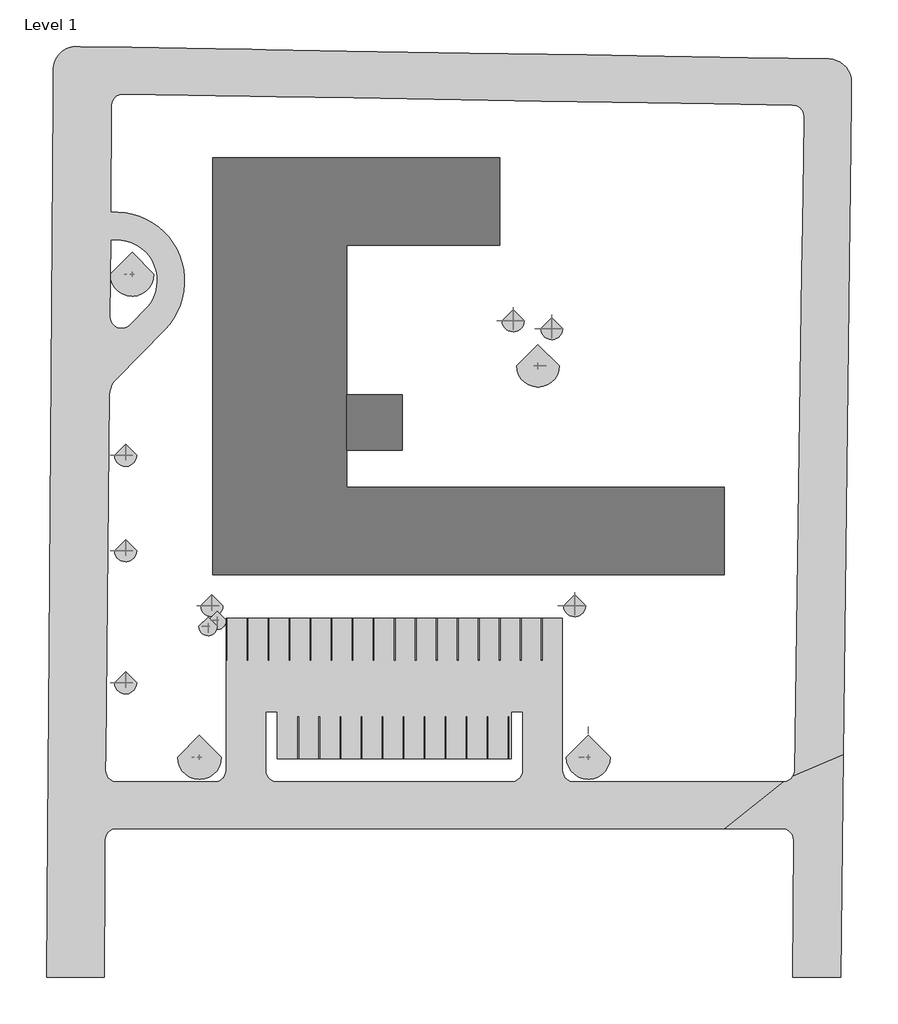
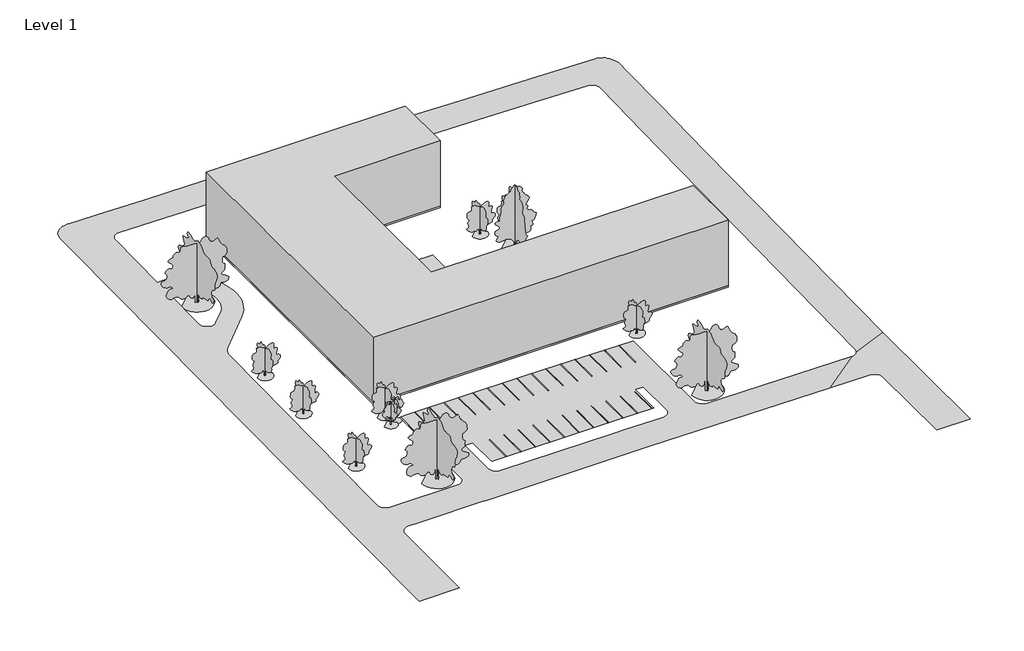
# One storey, incomplete: 30 proxies, 13 geographic elements, 1 slab.
"""IFC4 building model written with IfcOpenShell, lengths in millimetres."""

from ifc_helpers import new_model, si_unit, frame, origin, origin_with_axes, place, context, project, spatial, polyline, outline, extrude, triangles, transform, mapped, element, save
from components import m_parking_space_5480_x_2740mm_90_deg_a793e569, m_rpc_tree_deciduous_american_beech_6_0_meters_be49fed4, m_rpc_tree_deciduous_japanese_cherry_4_5_meters_7aaeb41d, m_rpc_tree_deciduous_lombardy_poplar_12_2_meters_1b309f58, m_rpc_tree_deciduous_scarlet_oak_12_5_meters_13b38d7d

model = new_model("IFC4")

# Units and contexts
model_context = context("Model", 3, world=origin())
ifc_project = project(units=[si_unit("LENGTHUNIT", "METRE", prefix="MILLI")], contexts=[model_context])

# Site, building, storey
site = spatial("IfcSite", under=ifc_project)
building = spatial("IfcBuilding", under=site)
storey = spatial("IfcBuildingStorey", under=building, Name="Level 1", Elevation=0.0)

# Proxies
placement = place(None, origin())
element("IfcBuildingElementProxy", 1, Name="Building Element Proxy", at=placement, inside=storey, context=model_context, shape_type="Tessellation", body=[
    triangles([(70309.7548828, 43704.7137085, -503.1527547), (59746.7205688, 43879.5355957, -409.5406998), (45204.5570435, 44120.2092773, -278.9620967), (38757.531958, 44226.9097412, -221.9724431), (23364.4389771, 44481.6709351, -156.1477909), (7458.42556, 44744.915332, 0.0), (-3099.0088051, 44919.6442017, 0.0), (-4909.0805878, 44949.6005127, 0.0), (-9691.7927261, 45028.7538208, 0.0), (-13464.786264, 45091.2011719, 0.0), (-20574.5627563, 45208.8684082, 0.0), (-27271.6376953, 45319.7081543, 0.0), (-27739.5370422, 45327.4518677, 0.0), (-28264.1631592, 45290.0215942, 0.0), (-28774.1901672, 45161.5457153, 0.0), (-29253.9399536, 44945.9681763, 0.0), (-29688.6669067, 44649.9211304, 0.0), (-30065.011377, 44282.4970459, 0.0), (-30371.4019775, 43854.9975586, 0.0), (-30598.4230042, 43380.5567505, 0.0), (-30739.095813, 42873.755127, 0.0), (-30774.2820374, 42505.3404053, 0.0), (-30789.0997375, 42350.1824341, 0.0), (-30818.2607483, 38430.6216797, 0.0), (-31349.0702087, -32913.8142334, 0.0), (-31410.3827454, -41154.7298218, 0.0), (-31466.9560364, -48758.3494263, 0.0), (-31526.3942688, -56747.4710815, 0.0), (-31669.8878357, -76033.9217651, 0.0), (-24160.2671448, -76033.9217651, 0.0), (-24090.7853394, -62944.5904907, 0.0), (-24065.2287598, -58130.4099243, 0.0), (-24026.1078918, -57797.9371948, 0.0), (-23964.4744446, -57624.1291992, 0.0), (-23914.2263489, -57482.4262207, 0.0), (-23735.1558838, -57199.58302, 0.0), (-23497.8145569, -56963.4997559, 0.0), (-23214.0249023, -56785.9338501, 0.0), (-22897.9232666, -56675.7266235, 0.0), (-22565.2505493, -56638.3707642, 0.0), (-21189.1601257, -56638.3707642, 0.0), (-18714.6158203, -56638.3707642, 0.0), (-9198.8908356, -56638.3707642, 0.0), (-8594.8358459, -56638.3707642, 0.0), (-7828.2291504, -56638.3707642, 0.0), (21010.0826843, -56638.3707642, 0.0), (22698.8121643, -56638.3707642, 0.0), (56711.1151611, -56638.3707642, -334.7282604), (64236.9255615, -56638.3707642, -334.7282604), (64572.5050781, -56676.3916992, -334.0721231), (64891.0763306, -56788.5243896, -332.1369578), (65176.4821655, -56969.0808105, -329.020869), (65414.2630005, -57208.917334, -324.8818048), (65592.3591064, -57495.8672607, -319.9295998), (65701.7431274, -57815.3872925, -314.4152925), (65736.8712158, -58151.2830688, -308.6184443), (65582.9224731, -76033.9217651, 0.0), (71858.6882446, -76033.9217651, 0.0), (72207.6111328, -46972.9328247, -501.5343578), (72914.4470581, 11897.6051788, -595.5837407), (72981.5592407, 17486.9884277, -555.8220689), (73096.2220093, 27037.1194519, -545.4053719), (73231.3532959, 38291.881311, -535.7858282), (73259.8957397, 40669.1083008, -533.0508934), (73220.8237061, 41189.0672607, -532.0520082), (73092.3059692, 41694.4085083, -530.2807137), (72878.2306641, 42169.863208, -527.790495), (72585.0625122, 42601.0694458, -524.6566383), (72221.661438, 42975.0001099, -520.9737236), (71799.0035156, 43280.3582153, -516.8530812), (71329.8554077, 43507.9210693, -512.4191949), (70828.3883423, 43650.810022, -507.805959), (65844.943689, -49064.5493408, -435.8225258), (65789.1005859, -49448.423584, -434.7050795), (65636.6912842, -49805.1366943, -432.6774053), (65397.8965576, -50110.8436157, -429.875069), (65088.6968262, -50345.0897827, -426.4855594), (64729.7652466, -50492.2110352, -422.7355339), (64345.1050049, -50542.3707642, -418.8757768), (37077.7972778, -50542.3707642, -150.5276125), (36744.0176514, -50504.7637573, -147.2983764), (36426.9718872, -50393.8263428, -144.3423523), (36142.5636658, -50215.1163208, -141.8077414), (35905.0502563, -49977.6052368, -139.8216707), (35726.3448853, -49693.1946899, -138.4837074), (35615.4051453, -49376.1535767, -137.8609529), (35577.7981384, -49042.3692993, -137.9846372), (35577.7981384, -29206.3707642, -167.3300298), (18575.1115448, -29206.3707642, 0.0), (14497.9359924, -29206.3707642, 0.0), (-7039.9656372, -29206.3707642, 0.0), (-8262.2014984, -29206.3707642, 0.0), (-8262.2014984, -49042.3692993, 0.0), (-8299.809668, -49376.1535767, 0.0), (-8410.7482452, -49693.1946899, 0.0), (-8589.4541977, -49977.6052368, 0.0), (-8665.8786026, -50054.028479, 0.0), (-8826.9670258, -50215.1163208, 0.0), (-9111.3758286, -50393.8263428, 0.0), (-9428.4198486, -50504.7637573, 0.0), (-9455.9652603, -50507.8658936, 0.0), (-9762.2018005, -50542.3707642, 0.0), (-21961.0269653, -50542.3707642, 0.0), (-22489.1714722, -50542.3707642, 0.0), (-22825.1137573, -50504.2661133, 0.0), (-23143.9896423, -50391.896228, 0.0), (-23429.5977905, -50210.9584351, 0.0), (-23667.4274597, -49970.6568237, 0.0), (-23845.3979919, -49683.1953003, 0.0), (-23954.4657532, -49363.1729736, 0.0), (-23989.0915466, -49026.8539673, 0.0), (-23965.8278503, -46777.8191528, 0.0), (-23482.8736084, -89.4265001, 0.0), (-23435.7322998, 363.1888415, 0.0), (-23321.7694885, 803.7518847, 0.0), (-23143.5268799, 1222.4547432, 0.0), (-22904.9670227, 1609.9761475, 0.0), (-22611.4058716, 1957.6892258, 0.0), (-16262.7991974, 8428.9988754, 0.0), (-15636.7711304, 9137.9788559, 0.0), (-15088.4732025, 9908.6498383, 0.0), (-14623.9422546, 10732.5286194, 0.0), (-14248.2919281, 11600.5442413, 0.0), (-13965.658017, 12503.1414734, 0.0), (-13779.1507965, 13430.3848755, 0.0), (-13690.8247925, 14372.0646057, 0.0), (-13701.6508759, 15317.8173431, 0.0), (-13811.5116119, 16257.2297699, 0.0), (-14019.1954468, 17179.959494, 0.0), (-14322.4187988, 18075.8513214, 0.0), (-14717.8411743, 18935.0395752, 0.0), (-15201.1093506, 19748.0690186, 0.0), (-15766.9062103, 20505.9855469, 0.0), (-16409.0007385, 21200.4478088, 0.0), (-17120.3235992, 21823.812085, 0.0), (-17893.0473633, 22369.2160034, 0.0), (-18718.662085, 22830.6506287, 0.0), (-19588.0811096, 23203.0418518, 0.0), (-20491.7329285, 23482.2875977, 0.0), (-21419.6693115, 23665.3136353, 0.0), (-22361.6746033, 23750.1084595, 0.0), (-23307.3796692, 23735.7325928, 0.0), (-23203.9185425, 37641.6768127, 0.0), (-23163.3768311, 37977.0679688, 0.0), (-23048.8094055, 38294.8811279, 0.0), (-22866.0228882, 38578.9940186, 0.0), (-22624.2911316, 38814.9958923, 0.0), (-22335.8738525, 38990.915387, 0.0), (-22015.4050415, 39097.8274658, 0.0), (-21679.1371948, 39130.3092041, 0.0), (-13208.9460663, 38990.1293884, 0.0), (-9625.997905, 38930.8306824, 0.0), (-5084.1908295, 38855.6655029, 0.0), (-1645.9585442, 38798.7619995, 0.0), (8377.2142456, 38632.8791016, 0.0), (32875.1398499, 38227.4364075, -240.4937689), (46729.6360474, 37998.1434265, -299.7389899), (55435.3325684, 37854.0638489, -376.6945579), (65630.1847046, 37685.3392639, -468.2372987), (65962.9318359, 37642.302356, -471.261242), (66277.7870361, 37526.3815247, -474.1950019), (66559.0024292, 37343.376416, -476.8917123), (66792.4998047, 37102.4422852, -479.216534), (66966.6054565, 36815.6318848, -481.0531225), (67072.6082886, 36497.2978271, -482.3095865), (67105.1969971, 36163.3670471, -482.9230665), (67025.2297852, 30755.4808594, -487.4104743), (66899.3025879, 22239.1774292, -496.4906977), (66805.7827148, 15914.661145, -541.4088498), (-1581.9995121, -47494.3707642, 0.0), (18839.3663452, -47494.3707642, 0.0), (21324.2449036, -47494.3707642, 0.0), (28897.5965881, -47494.3707642, -74.5322966), (28897.5965881, -41398.3707642, -83.5507232), (30421.5965881, -41398.3707642, -98.5489992), (30421.5965881, -49042.3692993, -87.2404598), (30383.9895813, -49376.1535767, -86.3765409), (30273.0498413, -49693.1946899, -84.8157168), (30094.3444702, -49977.6052368, -82.6362441), (29856.8310608, -50215.1163208, -79.9474184), (29572.4228394, -50393.8263428, -76.8840607), (29255.3770752, -50504.7637573, -73.5997817), (28921.5974487, -50542.3707642, -70.2592743), (21782.4332153, -50542.3707642, 0.0), (19562.9384583, -50542.3707642, 0.0), (-1605.9993553, -50542.3707642, 0.0), (-1939.7807259, -50504.7637573, 0.0), (-2256.8250366, -50393.8263428, 0.0), (-2541.2341301, -50215.1163208, 0.0), (-2778.7466675, -49977.6052368, 0.0), (-2957.4526199, -49693.1946899, 0.0), (-3068.3911972, -49376.1535767, 0.0), (-3105.9993668, -49042.3692993, 0.0), (-3105.9993668, -41398.3707642, 0.0), (-1581.9995121, -41398.3707642, 0.0), (-23329.5411072, 20062.4428528, 0.0), (-22621.2355042, 20122.8182373, 0.0), (-21911.2137268, 20088.0784973, 0.0), (-21212.1866272, 19958.8398743, 0.0), (-20536.6766968, 19737.4208313, 0.0), (-19896.7808716, 19427.7839172, 0.0), (-19303.9589172, 19035.4776306, 0.0), (-18768.829953, 18567.527124, 0.0), (-18300.9771149, 18032.3132813, 0.0), (-17908.7801239, 17439.420401, 0.0), (-17599.2606445, 16799.4687653, 0.0), (-17377.9648499, 16123.9181396, 0.0), (-17248.854126, 15424.8677856, 0.0), (-17214.2422852, 14714.8378693, 0.0), (-17274.7478943, 14006.5438934, 0.0), (-17429.2872986, 13312.6722931, 0.0), (-17675.0943878, 12645.649054, 0.0), (-18007.7659424, 12017.4211212, 0.0), (-18421.3430237, 11439.2389709, 0.0), (-20791.7983337, 9022.9684341, 0.0), (-21073.2044128, 8797.119429, 0.0), (-21399.8193604, 8643.7590225, 0.0), (-21753.3349915, 8571.483783, 0.0), (-22113.9339111, 8584.3452072, 0.0), (-22461.4010742, 8681.6229904, 0.0), (-22776.2609253, 8857.8639771, 0.0), (-23040.8610535, 9103.1879562, 0.0), (-23240.3698059, 9403.8428604, 0.0), (-23363.6018188, 9742.9750671, 0.0), (-23403.6505371, 10101.5741089, 0.0)], [[29, 30, 31], [29, 31, 28], [28, 32, 33], [32, 28, 31], [33, 34, 28], [28, 34, 35], [36, 37, 108], [36, 108, 28], [108, 37, 107], [38, 106, 107], [106, 38, 39], [37, 38, 107], [36, 28, 35], [28, 108, 27], [110, 111, 27], [109, 110, 27], [26, 27, 112], [25, 112, 113], [112, 25, 26], [27, 111, 112], [109, 27, 108], [114, 115, 224], [113, 114, 225], [225, 114, 224], [223, 116, 117], [223, 224, 115], [116, 223, 115], [25, 113, 24], [24, 113, 225], [105, 39, 40], [104, 40, 103], [105, 40, 104], [117, 118, 222], [118, 219, 220], [221, 118, 220], [223, 117, 222], [103, 41, 42], [41, 103, 40], [219, 118, 218], [216, 118, 119], [217, 218, 118], [118, 216, 217], [216, 119, 215], [212, 213, 122], [214, 121, 213], [119, 214, 215], [221, 222, 118], [121, 122, 213], [122, 123, 212], [211, 123, 124], [211, 212, 123], [211, 124, 210], [210, 124, 125], [121, 214, 120], [120, 214, 119], [105, 106, 39], [142, 143, 24], [196, 142, 24], [24, 144, 145], [144, 24, 143], [24, 145, 23], [146, 23, 145], [142, 196, 197], [196, 24, 225], [140, 198, 139], [197, 198, 141], [141, 198, 140], [12, 146, 147], [141, 142, 197], [12, 147, 148], [22, 20, 21], [16, 17, 22], [20, 22, 19], [18, 19, 22], [17, 18, 22], [22, 23, 13], [23, 12, 13], [23, 146, 12], [149, 11, 148], [16, 22, 15], [22, 14, 15], [13, 14, 22], [149, 150, 11], [12, 148, 11], [139, 198, 199], [207, 208, 128], [133, 203, 204], [205, 206, 131], [132, 204, 205], [207, 129, 206], [209, 126, 127], [126, 209, 210], [127, 128, 208], [206, 130, 131], [130, 206, 129], [129, 207, 128], [127, 208, 209], [210, 125, 126], [131, 132, 205], [137, 201, 136], [200, 201, 137], [11, 150, 151], [139, 199, 138], [200, 137, 138], [201, 202, 136], [199, 200, 138], [203, 134, 202], [134, 135, 202], [136, 202, 135], [10, 151, 9], [10, 11, 151], [203, 133, 134], [204, 132, 133], [103, 42, 102], [100, 43, 44], [99, 100, 44], [102, 43, 101], [188, 45, 187], [100, 101, 43], [44, 45, 99], [45, 186, 187], [43, 102, 42], [185, 186, 46], [46, 186, 45], [184, 46, 47], [185, 46, 184], [182, 183, 47], [47, 183, 184], [182, 82, 181], [99, 45, 98], [98, 45, 97], [95, 96, 190], [93, 94, 192], [95, 191, 94], [97, 190, 96], [45, 189, 190], [45, 188, 189], [191, 192, 94], [191, 95, 190], [193, 93, 192], [180, 181, 83], [190, 97, 45], [81, 182, 47], [79, 50, 78], [49, 50, 79], [80, 47, 48], [48, 79, 80], [79, 48, 49], [81, 47, 80], [78, 50, 51], [57, 58, 56], [55, 59, 54], [77, 51, 52], [59, 75, 53], [76, 52, 53], [54, 59, 53], [182, 81, 82], [55, 56, 59], [180, 84, 179], [180, 83, 84], [179, 84, 85], [177, 178, 86], [85, 86, 178], [178, 179, 85], [87, 177, 86], [77, 78, 51], [75, 76, 53], [59, 73, 74], [74, 75, 59], [77, 52, 76], [82, 83, 181], [56, 58, 59], [170, 171, 195], [91, 92, 194], [194, 195, 91], [93, 194, 92], [195, 90, 91], [90, 195, 171], [194, 93, 193], [175, 176, 87], [172, 174, 89], [172, 173, 174], [175, 88, 174], [88, 175, 87], [172, 89, 171], [177, 87, 176], [89, 174, 88], [8, 152, 153], [7, 153, 154], [8, 9, 152], [6, 7, 154], [8, 153, 7], [154, 155, 6], [9, 151, 152], [89, 90, 171], [155, 5, 6], [155, 156, 5], [5, 156, 4], [4, 157, 3], [4, 156, 157], [168, 169, 61], [160, 161, 1], [162, 163, 64], [161, 162, 1], [163, 164, 63], [62, 168, 61], [61, 169, 60], [165, 166, 63], [167, 63, 166], [168, 62, 167], [164, 165, 63], [63, 167, 62], [3, 158, 2], [2, 158, 159], [2, 159, 1], [66, 71, 72], [72, 1, 65], [159, 160, 1], [158, 3, 157], [66, 72, 65], [64, 65, 1], [66, 67, 71], [69, 70, 68], [67, 68, 70], [71, 67, 70], [162, 64, 1], [163, 63, 64], [60, 169, 73], [59, 60, 73]], closed=False),
])
m_parking_space_5480_x_2740mm_90_deg_shape = m_parking_space_5480_x_2740mm_90_deg_a793e569(model_context)
element("IfcBuildingElementProxy", 2, Name="M_Parking Space : 5480 x 2740mm - 90 deg", ObjectType="M_Parking Space : 5480 x 2740mm - 90 deg", at=placement, inside=storey, context=model_context, shape_type="MappedRepresentation", body=[
    mapped(m_parking_space_5480_x_2740mm_90_deg_shape, transform((-8211.3704002, -29206.3707642, 0.7803686), x_axis=(1.0, 0.0, 0.0), y_axis=(0.0, 1.0, 0.0), z_axis=(0.0, 0.0, 1.0))),
])
element("IfcBuildingElementProxy", 3, Name="M_Parking Space : 5480 x 2740mm - 90 deg", ObjectType="M_Parking Space : 5480 x 2740mm - 90 deg", at=placement, inside=storey, context=model_context, shape_type="MappedRepresentation", body=[
    mapped(m_parking_space_5480_x_2740mm_90_deg_shape, transform((-5471.4012928, -29206.3707642, 0.7803686), x_axis=(1.0, 0.0, 0.0), y_axis=(0.0, 1.0, 0.0), z_axis=(0.0, 0.0, 1.0))),
])
element("IfcBuildingElementProxy", 4, Name="M_Parking Space : 5480 x 2740mm - 90 deg", ObjectType="M_Parking Space : 5480 x 2740mm - 90 deg", at=placement, inside=storey, context=model_context, shape_type="MappedRepresentation", body=[
    mapped(m_parking_space_5480_x_2740mm_90_deg_shape, transform((-2731.4321855, -29206.3707642, 0.7803686), x_axis=(1.0, 0.0, 0.0), y_axis=(0.0, 1.0, 0.0), z_axis=(0.0, 0.0, 1.0))),
])
element("IfcBuildingElementProxy", 5, Name="M_Parking Space : 5480 x 2740mm - 90 deg", ObjectType="M_Parking Space : 5480 x 2740mm - 90 deg", at=placement, inside=storey, context=model_context, shape_type="MappedRepresentation", body=[
    mapped(m_parking_space_5480_x_2740mm_90_deg_shape, transform((8.5369219, -29206.3707642, 0.7803686), x_axis=(1.0, 0.0, 0.0), y_axis=(0.0, 1.0, 0.0), z_axis=(0.0, 0.0, 1.0))),
])
element("IfcBuildingElementProxy", 6, Name="M_Parking Space : 5480 x 2740mm - 90 deg", ObjectType="M_Parking Space : 5480 x 2740mm - 90 deg", at=placement, inside=storey, context=model_context, shape_type="MappedRepresentation", body=[
    mapped(m_parking_space_5480_x_2740mm_90_deg_shape, transform((2748.5060292, -29206.3707642, 0.7803686), x_axis=(1.0, 0.0, 0.0), y_axis=(0.0, 1.0, 0.0), z_axis=(0.0, 0.0, 1.0))),
])
element("IfcBuildingElementProxy", 7, Name="M_Parking Space : 5480 x 2740mm - 90 deg", ObjectType="M_Parking Space : 5480 x 2740mm - 90 deg", at=placement, inside=storey, context=model_context, shape_type="MappedRepresentation", body=[
    mapped(m_parking_space_5480_x_2740mm_90_deg_shape, transform((5488.4751366, -29206.3707642, 0.7803686), x_axis=(1.0, 0.0, 0.0), y_axis=(0.0, 1.0, 0.0), z_axis=(0.0, 0.0, 1.0))),
])
element("IfcBuildingElementProxy", 8, Name="M_Parking Space : 5480 x 2740mm - 90 deg", ObjectType="M_Parking Space : 5480 x 2740mm - 90 deg", at=placement, inside=storey, context=model_context, shape_type="MappedRepresentation", body=[
    mapped(m_parking_space_5480_x_2740mm_90_deg_shape, transform((8228.4442439, -29206.3707642, 0.7803686), x_axis=(1.0, 0.0, 0.0), y_axis=(0.0, 1.0, 0.0), z_axis=(0.0, 0.0, 1.0))),
])
element("IfcBuildingElementProxy", 9, Name="M_Parking Space : 5480 x 2740mm - 90 deg", ObjectType="M_Parking Space : 5480 x 2740mm - 90 deg", at=placement, inside=storey, context=model_context, shape_type="MappedRepresentation", body=[
    mapped(m_parking_space_5480_x_2740mm_90_deg_shape, transform((10968.4133512, -29206.3707642, 0.7803686), x_axis=(1.0, 0.0, 0.0), y_axis=(0.0, 1.0, 0.0), z_axis=(0.0, 0.0, 1.0))),
])
element("IfcBuildingElementProxy", 10, Name="M_Parking Space : 5480 x 2740mm - 90 deg", ObjectType="M_Parking Space : 5480 x 2740mm - 90 deg", at=placement, inside=storey, context=model_context, shape_type="MappedRepresentation", body=[
    mapped(m_parking_space_5480_x_2740mm_90_deg_shape, transform((13708.3824586, -29206.3707642, 0.7803686), x_axis=(1.0, 0.0, 0.0), y_axis=(0.0, 1.0, 0.0), z_axis=(0.0, 0.0, 1.0))),
])
element("IfcBuildingElementProxy", 11, Name="M_Parking Space : 5480 x 2740mm - 90 deg", ObjectType="M_Parking Space : 5480 x 2740mm - 90 deg", at=placement, inside=storey, context=model_context, shape_type="MappedRepresentation", body=[
    mapped(m_parking_space_5480_x_2740mm_90_deg_shape, transform((16448.3515659, -29206.3707642, 0.7254434), x_axis=(1.0, 0.0, 0.0), y_axis=(0.0, 1.0, 0.0), z_axis=(0.0, 0.0, 1.0))),
])
element("IfcBuildingElementProxy", 12, Name="M_Parking Space : 5480 x 2740mm - 90 deg", ObjectType="M_Parking Space : 5480 x 2740mm - 90 deg", at=placement, inside=storey, context=model_context, shape_type="MappedRepresentation", body=[
    mapped(m_parking_space_5480_x_2740mm_90_deg_shape, transform((19188.3206733, -29206.3707642, -5.2310848), x_axis=(0.9999560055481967, 0.0, -0.009380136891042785), y_axis=(-1.1675017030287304e-05, 0.9999992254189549, -0.0012445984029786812), z_axis=(0.009380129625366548, 0.0012446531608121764, 0.9999552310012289))),
])
element("IfcBuildingElementProxy", 13, Name="M_Parking Space : 5480 x 2740mm - 90 deg", ObjectType="M_Parking Space : 5480 x 2740mm - 90 deg", at=placement, inside=storey, context=model_context, shape_type="MappedRepresentation", body=[
    mapped(m_parking_space_5480_x_2740mm_90_deg_shape, transform((21928.2897806, -29206.3707642, -32.2196013), x_axis=(0.9999515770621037, 0.0, -0.0098409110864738), y_axis=(-1.4557933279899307e-05, 0.9999989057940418, -0.0014792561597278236), z_axis=(0.009840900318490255, 0.0014793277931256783, 0.99995048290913))),
])
element("IfcBuildingElementProxy", 14, Name="M_Parking Space : 5480 x 2740mm - 90 deg", ObjectType="M_Parking Space : 5480 x 2740mm - 90 deg", at=placement, inside=storey, context=model_context, shape_type="MappedRepresentation", body=[
    mapped(m_parking_space_5480_x_2740mm_90_deg_shape, transform((24668.258888, -29206.3707642, -59.1846994), x_axis=(0.9999515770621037, 0.0, -0.009840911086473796), y_axis=(-1.4557933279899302e-05, 0.9999989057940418, -0.0014792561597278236), z_axis=(0.009840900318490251, 0.0014793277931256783, 0.99995048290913))),
])
element("IfcBuildingElementProxy", 15, Name="M_Parking Space : 5480 x 2740mm - 90 deg", ObjectType="M_Parking Space : 5480 x 2740mm - 90 deg", at=placement, inside=storey, context=model_context, shape_type="MappedRepresentation", body=[
    mapped(m_parking_space_5480_x_2740mm_90_deg_shape, transform((27408.2279953, -29206.3707642, -86.1497975), x_axis=(0.9999515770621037, 0.0, -0.0098409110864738), y_axis=(-1.4557933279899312e-05, 0.9999989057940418, -0.001479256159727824), z_axis=(0.009840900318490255, 0.0014793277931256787, 0.99995048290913))),
])
element("IfcBuildingElementProxy", 16, Name="M_Parking Space : 5480 x 2740mm - 90 deg", ObjectType="M_Parking Space : 5480 x 2740mm - 90 deg", at=placement, inside=storey, context=model_context, shape_type="MappedRepresentation", body=[
    mapped(m_parking_space_5480_x_2740mm_90_deg_shape, transform((30148.1971027, -29206.3707642, -113.1148956), x_axis=(0.9999515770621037, 0.0, -0.009840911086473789), y_axis=(-1.4557933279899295e-05, 0.9999989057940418, -0.001479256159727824), z_axis=(0.009840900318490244, 0.0014793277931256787, 0.99995048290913))),
])
element("IfcBuildingElementProxy", 17, Name="M_Parking Space : 5480 x 2740mm - 90 deg", ObjectType="M_Parking Space : 5480 x 2740mm - 90 deg", at=placement, inside=storey, context=model_context, shape_type="MappedRepresentation", body=[
    mapped(m_parking_space_5480_x_2740mm_90_deg_shape, transform((32888.16621, -29206.3707642, -140.0799937), x_axis=(0.9999515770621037, 0.0, -0.009840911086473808), y_axis=(-1.4557933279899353e-05, 0.9999989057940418, -0.0014792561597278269), z_axis=(0.009840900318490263, 0.0014793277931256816, 0.99995048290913))),
])
element("IfcBuildingElementProxy", 18, Name="M_Parking Space : 5480 x 2740mm - 90 deg", ObjectType="M_Parking Space : 5480 x 2740mm - 90 deg", at=placement, inside=storey, context=model_context, shape_type="MappedRepresentation", body=[
    mapped(m_parking_space_5480_x_2740mm_90_deg_shape, transform((28558.0005584, -47494.3704098, -70.4098691), x_axis=(-0.9999515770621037, 0.0, 0.009840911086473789), y_axis=(1.4557933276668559e-05, -0.9999989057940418, 0.0014792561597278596), z_axis=(0.00984090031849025, 0.0014793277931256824, 0.99995048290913))),
])
element("IfcBuildingElementProxy", 19, Name="M_Parking Space : 5480 x 2740mm - 90 deg", ObjectType="M_Parking Space : 5480 x 2740mm - 90 deg", at=placement, inside=storey, context=model_context, shape_type="MappedRepresentation", body=[
    mapped(m_parking_space_5480_x_2740mm_90_deg_shape, transform((25818.031746, -47494.3704098, -43.444774), x_axis=(-0.9999515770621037, 0.0, 0.009840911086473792), y_axis=(1.455793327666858e-05, -0.9999989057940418, 0.0014792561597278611), z_axis=(0.009840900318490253, 0.001479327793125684, 0.99995048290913))),
])
element("IfcBuildingElementProxy", 20, Name="M_Parking Space : 5480 x 2740mm - 90 deg", ObjectType="M_Parking Space : 5480 x 2740mm - 90 deg", at=placement, inside=storey, context=model_context, shape_type="MappedRepresentation", body=[
    mapped(m_parking_space_5480_x_2740mm_90_deg_shape, transform((23078.0629336, -47494.3704098, -16.4796788), x_axis=(-0.9999515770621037, 0.0, 0.009840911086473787), y_axis=(1.4557933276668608e-05, -0.9999989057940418, 0.0014792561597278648), z_axis=(0.009840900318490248, 0.0014793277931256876, 0.99995048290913))),
])
element("IfcBuildingElementProxy", 21, Name="M_Parking Space : 5480 x 2740mm - 90 deg", ObjectType="M_Parking Space : 5480 x 2740mm - 90 deg", at=placement, inside=storey, context=model_context, shape_type="MappedRepresentation", body=[
    mapped(m_parking_space_5480_x_2740mm_90_deg_shape, transform((20338.0941212, -47494.3704098, 0.5399922), x_axis=(-0.9999888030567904, 0.0, 0.004732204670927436), y_axis=(3.5003760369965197e-06, -0.9999997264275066, 0.0007396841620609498), z_axis=(0.004732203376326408, 0.0007396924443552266, 0.9999885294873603))),
])
element("IfcBuildingElementProxy", 22, Name="M_Parking Space : 5480 x 2740mm - 90 deg", ObjectType="M_Parking Space : 5480 x 2740mm - 90 deg", at=placement, inside=storey, context=model_context, shape_type="MappedRepresentation", body=[
    mapped(m_parking_space_5480_x_2740mm_90_deg_shape, transform((17598.1253087, -47494.3704098, 0.7803686), x_axis=(-1.0, 0.0, 0.0), y_axis=(0.0, -1.0, 0.0), z_axis=(0.0, 0.0, 1.0))),
])
element("IfcBuildingElementProxy", 23, Name="M_Parking Space : 5480 x 2740mm - 90 deg", ObjectType="M_Parking Space : 5480 x 2740mm - 90 deg", at=placement, inside=storey, context=model_context, shape_type="MappedRepresentation", body=[
    mapped(m_parking_space_5480_x_2740mm_90_deg_shape, transform((14858.1564963, -47494.3704098, 0.7803686), x_axis=(-1.0, 0.0, 0.0), y_axis=(0.0, -1.0, 0.0), z_axis=(0.0, 0.0, 1.0))),
])
element("IfcBuildingElementProxy", 24, Name="M_Parking Space : 5480 x 2740mm - 90 deg", ObjectType="M_Parking Space : 5480 x 2740mm - 90 deg", at=placement, inside=storey, context=model_context, shape_type="MappedRepresentation", body=[
    mapped(m_parking_space_5480_x_2740mm_90_deg_shape, transform((12118.1876839, -47494.3704098, 0.7803686), x_axis=(-1.0, 0.0, 0.0), y_axis=(0.0, -1.0, 0.0), z_axis=(0.0, 0.0, 1.0))),
])
element("IfcBuildingElementProxy", 25, Name="M_Parking Space : 5480 x 2740mm - 90 deg", ObjectType="M_Parking Space : 5480 x 2740mm - 90 deg", at=placement, inside=storey, context=model_context, shape_type="MappedRepresentation", body=[
    mapped(m_parking_space_5480_x_2740mm_90_deg_shape, transform((9378.2188715, -47494.3704098, 0.7803686), x_axis=(-1.0, 0.0, 0.0), y_axis=(0.0, -1.0, 0.0), z_axis=(0.0, 0.0, 1.0))),
])
element("IfcBuildingElementProxy", 26, Name="M_Parking Space : 5480 x 2740mm - 90 deg", ObjectType="M_Parking Space : 5480 x 2740mm - 90 deg", at=placement, inside=storey, context=model_context, shape_type="MappedRepresentation", body=[
    mapped(m_parking_space_5480_x_2740mm_90_deg_shape, transform((6638.2500591, -47494.3704098, 0.7803686), x_axis=(-1.0, 0.0, 0.0), y_axis=(0.0, -1.0, 0.0), z_axis=(0.0, 0.0, 1.0))),
])
element("IfcBuildingElementProxy", 27, Name="M_Parking Space : 5480 x 2740mm - 90 deg", ObjectType="M_Parking Space : 5480 x 2740mm - 90 deg", at=placement, inside=storey, context=model_context, shape_type="MappedRepresentation", body=[
    mapped(m_parking_space_5480_x_2740mm_90_deg_shape, transform((3898.2812467, -47494.3704098, 0.7803686), x_axis=(-1.0, 0.0, 0.0), y_axis=(0.0, -1.0, 0.0), z_axis=(0.0, 0.0, 1.0))),
])
element("IfcBuildingElementProxy", 28, Name="M_Parking Space : 5480 x 2740mm - 90 deg", ObjectType="M_Parking Space : 5480 x 2740mm - 90 deg", at=placement, inside=storey, context=model_context, shape_type="MappedRepresentation", body=[
    mapped(m_parking_space_5480_x_2740mm_90_deg_shape, transform((1158.3124343, -47494.3704098, 0.7803686), x_axis=(-1.0, 0.0, 0.0), y_axis=(0.0, -1.0, 0.0), z_axis=(0.0, 0.0, 1.0))),
])
element("IfcBuildingElementProxy", 29, Name="Main Building : Main Building", ObjectType="Main Building : Main Building", at=placement, inside=storey, context=model_context, shape_type="SweptSolid", body=[
    extrude(outline(polyline([(27411.8999097, 30818.5799804), (27411.8999097, 19414.8392059), (7447.5010724, 19414.8392059), (7447.5010724, -12132.3615692), (56699.1173382, -12132.3615692), (56699.1173382, -23510.7006057), (-10026.8386635, -23510.7006057), (-10026.8386635, 30818.5799804), (27411.8999097, 30818.5799804)])), origin_with_axes(), (0.0, 0.0, 1.0), 13000.0),
])
element("IfcBuildingElementProxy", 30, Name="Pavillion : Pavillion", ObjectType="Pavillion : Pavillion", at=placement, inside=storey, context=model_context, shape_type="SweptSolid", body=[
    extrude(outline(polyline([(14709.0902051, -89.4607941), (14709.0902051, -7283.8611817), (7447.5010724, -7283.8611817), (7447.5010724, -89.4607941), (14709.0902051, -89.4607941)])), origin_with_axes(), (0.0, 0.0, 1.0), 6600.0),
])

# Geographic elements
m_rpc_tree_deciduous_american_beech_6_0_meters_shape = m_rpc_tree_deciduous_american_beech_6_0_meters_be49fed4(model_context)
element("IfcGeographicElement", 31, ObjectType="M_RPC Tree - Deciduous : American Beech - 6.0 Meters", at=placement, inside=storey, context=model_context, shape_type="MappedRepresentation", body=[
    mapped(m_rpc_tree_deciduous_american_beech_6_0_meters_shape, transform((34188.8932364, 8562.754829, -209.5369666), x_axis=(1.0, 0.0, 0.0), y_axis=(0.0, 1.0, 0.0), z_axis=(0.0, 0.0, 1.0))),
])
element("IfcGeographicElement", 32, ObjectType="M_RPC Tree - Deciduous : American Beech - 6.0 Meters", at=placement, inside=storey, context=model_context, shape_type="MappedRepresentation", body=[
    mapped(m_rpc_tree_deciduous_american_beech_6_0_meters_shape, transform((-21369.8074033, -37622.5453961, 0.0), x_axis=(1.0, 0.0, 0.0), y_axis=(0.0, 1.0, 0.0), z_axis=(0.0, 0.0, 1.0))),
])
element("IfcGeographicElement", 33, ObjectType="M_RPC Tree - Deciduous : American Beech - 6.0 Meters", at=placement, inside=storey, context=model_context, shape_type="MappedRepresentation", body=[
    mapped(m_rpc_tree_deciduous_american_beech_6_0_meters_shape, transform((-21369.8074033, -20409.5737255, 0.0), x_axis=(1.0, 0.0, 0.0), y_axis=(0.0, 1.0, 0.0), z_axis=(0.0, 0.0, 1.0))),
])
element("IfcGeographicElement", 34, ObjectType="M_RPC Tree - Deciduous : American Beech - 6.0 Meters", at=placement, inside=storey, context=model_context, shape_type="MappedRepresentation", body=[
    mapped(m_rpc_tree_deciduous_american_beech_6_0_meters_shape, transform((-21369.8074033, -7968.5149933, 0.0), x_axis=(1.0, 0.0, 0.0), y_axis=(0.0, 1.0, 0.0), z_axis=(0.0, 0.0, 1.0))),
])
element("IfcGeographicElement", 35, ObjectType="M_RPC Tree - Deciduous : American Beech - 6.0 Meters", at=placement, inside=storey, context=model_context, shape_type="MappedRepresentation", body=[
    mapped(m_rpc_tree_deciduous_american_beech_6_0_meters_shape, transform((-10121.7269057, -27567.443133, 0.0), x_axis=(1.0, 0.0, 0.0), y_axis=(0.0, 1.0, 0.0), z_axis=(0.0, 0.0, 1.0))),
])
element("IfcGeographicElement", 36, ObjectType="M_RPC Tree - Deciduous : American Beech - 6.0 Meters", at=placement, inside=storey, context=model_context, shape_type="MappedRepresentation", body=[
    mapped(m_rpc_tree_deciduous_american_beech_6_0_meters_shape, transform((37171.3388229, -27567.443133, -185.4373169), x_axis=(1.0, 0.0, 0.0), y_axis=(0.0, 1.0, 0.0), z_axis=(0.0, 0.0, 1.0))),
])
element("IfcGeographicElement", 37, ObjectType="M_RPC Tree - Deciduous : American Beech - 6.0 Meters", at=placement, inside=storey, context=model_context, shape_type="MappedRepresentation", body=[
    mapped(m_rpc_tree_deciduous_american_beech_6_0_meters_shape, transform((29161.3421049, 9585.3076015, -161.5716527), x_axis=(1.0, 0.0, 0.0), y_axis=(0.0, 1.0, 0.0), z_axis=(0.0, 0.0, 1.0))),
])
m_rpc_tree_deciduous_japanese_cherry_4_5_meters_shape = m_rpc_tree_deciduous_japanese_cherry_4_5_meters_7aaeb41d(model_context)
element("IfcGeographicElement", 38, ObjectType="M_RPC Tree - Deciduous : Japanese Cherry - 4.5 Meters", at=placement, inside=storey, context=model_context, shape_type="MappedRepresentation", body=[
    mapped(m_rpc_tree_deciduous_japanese_cherry_4_5_meters_shape, transform((-10610.2166919, -30274.1375785, 0.0), x_axis=(1.0, 0.0, 0.0), y_axis=(0.0, 1.0, 0.0), z_axis=(0.0, 0.0, 1.0))),
])
element("IfcGeographicElement", 39, ObjectType="M_RPC Tree - Deciduous : Japanese Cherry - 4.5 Meters", at=placement, inside=storey, context=model_context, shape_type="MappedRepresentation", body=[
    mapped(m_rpc_tree_deciduous_japanese_cherry_4_5_meters_shape, transform((-9420.9461982, -29474.7859552, 0.0), x_axis=(1.0, 0.0, 0.0), y_axis=(0.0, 1.0, 0.0), z_axis=(0.0, 0.0, 1.0))),
])
m_rpc_tree_deciduous_lombardy_poplar_12_2_meters_shape = m_rpc_tree_deciduous_lombardy_poplar_12_2_meters_1b309f58(model_context)
element("IfcGeographicElement", 40, ObjectType="M_RPC Tree - Deciduous : Lombardy Poplar - 12.2 Meters", at=placement, inside=storey, context=model_context, shape_type="MappedRepresentation", body=[
    mapped(m_rpc_tree_deciduous_lombardy_poplar_12_2_meters_shape, transform((32399.4258845, 3705.6291595, -184.7404879), x_axis=(1.0, 0.0, 0.0), y_axis=(0.0, 1.0, 0.0), z_axis=(0.0, 0.0, 1.0))),
])
m_rpc_tree_deciduous_scarlet_oak_12_5_meters_shape = m_rpc_tree_deciduous_scarlet_oak_12_5_meters_13b38d7d(model_context)
element("IfcGeographicElement", 41, ObjectType="M_RPC Tree - Deciduous : Scarlet Oak - 12.5 Meters", at=placement, inside=storey, context=model_context, shape_type="MappedRepresentation", body=[
    mapped(m_rpc_tree_deciduous_scarlet_oak_12_5_meters_shape, transform((38960.8061748, -47336.7967349, -173.8013564), x_axis=(1.0, 0.0, 0.0), y_axis=(0.0, 1.0, 0.0), z_axis=(0.0, 0.0, 1.0))),
])
element("IfcGeographicElement", 42, ObjectType="M_RPC Tree - Deciduous : Scarlet Oak - 12.5 Meters", at=placement, inside=storey, context=model_context, shape_type="MappedRepresentation", body=[
    mapped(m_rpc_tree_deciduous_scarlet_oak_12_5_meters_shape, transform((-11740.7687955, -47336.7967349, 0.0), x_axis=(1.0, 0.0, 0.0), y_axis=(0.0, 1.0, 0.0), z_axis=(0.0, 0.0, 1.0))),
])
element("IfcGeographicElement", 43, ObjectType="M_RPC Tree - Deciduous : Scarlet Oak - 12.5 Meters", at=placement, inside=storey, context=model_context, shape_type="MappedRepresentation", body=[
    mapped(m_rpc_tree_deciduous_scarlet_oak_12_5_meters_shape, transform((-20517.6800928, 15635.4115055, 0.0), x_axis=(1.0, 0.0, 0.0), y_axis=(0.0, 1.0, 0.0), z_axis=(0.0, 0.0, 1.0))),
])

# Slab
element("IfcSlab", 44, ObjectType="Pad 1", at=placement, inside=storey, context=model_context, shape_type="SweptSolid", body=[
    extrude(outline(polyline([(27411.8999097, 30818.5799804), (27411.8999097, 19414.8392059), (7447.5010724, 19414.8392059), (7447.5010724, -89.4607941), (14709.0902051, -89.4607941), (14709.0902051, -7283.8611817), (7447.5010724, -7283.8611817), (7447.5010724, -12132.3615692), (56699.1173382, -12132.3615692), (56699.1173382, -23510.7006057), (-10026.8386635, -23510.7006057), (-10026.8386635, 30818.5799804), (27411.8999097, 30818.5799804)])), frame((0.0, 0.0, -304.8), z_axis=(0.0, 0.0, 1.0), x_axis=(1.0, 0.0, 0.0)), (0.0, 0.0, 1.0), 304.8),
])

save(model, "model.ifc")
